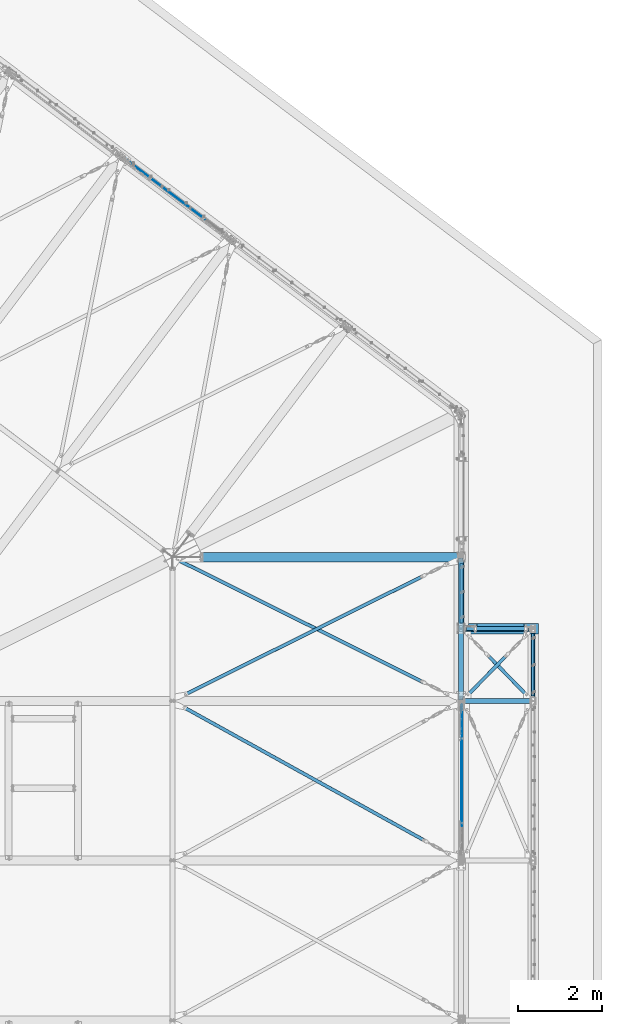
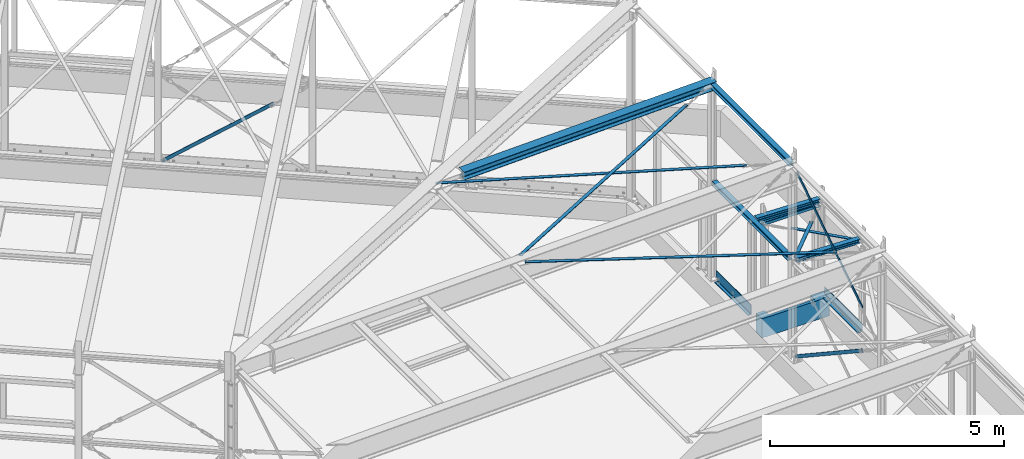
# One storey, part 25 of 476: 11 members, 6 beams, 58 openings.
"""IFC2X3 building model written with IfcOpenShell, lengths in millimetres."""

from ifc_helpers import new_model, entity, si_unit, converted_unit, frame, frame_2d, origin, origin_with_axes, origin_2d, origin_2d_with_axis, place, context, project, spatial, polyline, rectangle, hollow_rectangle, circle, i_section, l_section, outline, extrude, clip, halfspace, material, element, save


model = new_model("IFC2X3")

# Units and contexts
model_context = context("Model", 3, precision=1e-09, world=origin_with_axes())
ifc_project = project(units=[si_unit("LENGTHUNIT", "METRE", prefix="MILLI"), si_unit("AREAUNIT", "SQUARE_METRE"), si_unit("VOLUMEUNIT", "CUBIC_METRE"), converted_unit("PLANEANGLEUNIT", "DEGREE", entity("IfcPlaneAngleMeasure", 0.01745329), si_unit("PLANEANGLEUNIT", "RADIAN"), dimensions=[0, 0, 0, 0, 0, 0, 0])], contexts=[model_context])

# Site, building, storey
site_placement = place(None, origin_with_axes())
site = spatial("IfcSite", under=ifc_project, at=site_placement, Name="mKR Teilneubau & Sanierung BA1 - Ostfildern", CompositionType="ELEMENT")
building_placement = place(site_placement, origin_with_axes())
building = spatial("IfcBuilding", under=site, at=building_placement, Name="Struktur 1", CompositionType="ELEMENT")
storey_placement = place(building_placement, origin_with_axes())
storey = spatial("IfcBuildingStorey", under=building, at=storey_placement, Name="Default Storey", CompositionType="ELEMENT", Elevation=0.0)

# Member, openings
ifc_material_1 = material(Name="S235JR")
member_1_placement = place(None, frame((21128.924203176, -9306.540722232, 5611.516079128), z_axis=(0.874571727, -0.484183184, 0.026285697), x_axis=(0.030041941, 0.0, -0.999548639)))
member_1 = element("IfcMember", 1, at=member_1_placement, inside=storey, material=ifc_material_1, Name="-", ObjectType="-", context=model_context, shape_type="SweptSolid", body=[
    extrude(rectangle(XDim=15.0, YDim=80.0, at=origin_2d()), origin(), (0.0, 0.0, -1.0), 6675.65653727),
])
opening_1_placement = place(member_1_placement, frame((8.0, -0.000317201, -6615.657110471), z_axis=(-1.0, 0.0, 0.0), x_axis=(0.0, 0.0, -1.0)))
element("IfcOpeningElement", 2, at=opening_1_placement, cuts=member_1, ObjectType="Opening", context=model_context, shape_type="SweptSolid", body=[
    extrude(circle(Radius=14.501, at=origin_2d_with_axis()), origin(), (0.0, 0.0, 1.0), 16.0),
])
opening_2_placement = place(member_1_placement, frame((8.0, 1.312132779, -60.726847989), z_axis=(-1.0, 0.0, 0.0), x_axis=(0.0, 0.0, -1.0)))
element("IfcOpeningElement", 3, at=opening_2_placement, cuts=member_1, ObjectType="Opening", context=model_context, shape_type="SweptSolid", body=[
    extrude(circle(Radius=14.501, at=origin_2d_with_axis()), origin(), (0.0, 0.0, 1.0), 16.0),
])

member_2_placement = place(None, frame((15129.595454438, -2545.899628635, 5408.192936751), z_axis=(0.894867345, -0.445521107, 0.026895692), x_axis=(0.030041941, 0.0, -0.999548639)))
member_2 = element("IfcMember", 4, at=member_2_placement, inside=storey, material=ifc_material_1, Name="-", ObjectType="-", context=model_context, shape_type="SweptSolid", body=[
    extrude(rectangle(XDim=15.0, YDim=80.0, at=origin_2d()), origin(), (0.0, 0.0, 1.0), 6652.397441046),
])
opening_3_placement = place(member_2_placement, frame((7.5, 40.0, 0.0), z_axis=(1.0, 0.0, 0.0), x_axis=(0.0, 0.0, 1.0)))
element("IfcOpeningElement", 5, at=opening_3_placement, cuts=member_2, ObjectType="Opening", context=model_context, shape_type="SweptSolid", body=[
    extrude(outline(polyline([(0.0, 0.0), (45.0, 0.0), (0.0, 25.0), (0.0, 0.0)])), origin(), (0.0, 0.0, -1.0), 15.0),
])
opening_4_placement = place(member_2_placement, frame((8.0, 0.0, 6606.898110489), z_axis=(1.0, 0.0, 0.0), x_axis=(0.0, 1.0, 0.0)))
element("IfcOpeningElement", 6, at=opening_4_placement, cuts=member_2, ObjectType="Opening", context=model_context, shape_type="SweptSolid", body=[
    extrude(circle(Radius=14.501, at=frame_2d((0.0, -14.501), x_axis=(1.0, 0.0))), origin(), (0.0, 0.0, -1.0), 16.0),
])
opening_5_placement = place(member_2_placement, frame((-8.0, 0.0, 75.999), z_axis=(-1.0, 0.0, 0.0), x_axis=(0.0, -1.0, 0.0)))
element("IfcOpeningElement", 7, at=opening_5_placement, cuts=member_2, ObjectType="Opening", context=model_context, shape_type="SweptSolid", body=[
    extrude(circle(Radius=9.001, at=frame_2d((0.0, 9.001), x_axis=(1.0, 0.0))), origin(), (0.0, 0.0, -1.0), 16.0),
])
opening_6_placement = place(member_2_placement, frame((-8.0, 0.0, 25.999), z_axis=(-1.0, 0.0, 0.0), x_axis=(0.0, -1.0, 0.0)))
element("IfcOpeningElement", 8, at=opening_6_placement, cuts=member_2, ObjectType="Opening", context=model_context, shape_type="SweptSolid", body=[
    extrude(circle(Radius=9.001, at=frame_2d((0.0, 9.001), x_axis=(1.0, 0.0))), origin(), (0.0, 0.0, -1.0), 16.0),
])

# Beam, openings
beam_1_placement = place(None, frame((23718.008764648, -4278.67387897, 594.5), z_axis=(0.0, 1.0, 0.0), x_axis=(-1.0, 0.0, 0.0)))
beam_1 = element("IfcBeam", 9, at=beam_1_placement, inside=storey, material=ifc_material_1, Name="-", ObjectType="-", context=model_context, shape_type="SweptSolid", body=[
    extrude(l_section(Depth=250.0, Width=90.0, Thickness=10.0, FilletRadius=15.0, EdgeRadius=7.5, at=frame_2d((30.5, 29.4))), origin(), (0.0, 0.0, -1.0), 1610.0),
])
opening_7_placement = place(beam_1_placement, frame((-115.7, -94.5, 0.0), z_axis=(1.0, 0.0, 0.0), x_axis=(0.0, 0.0, -1.0)))
element("IfcOpeningElement", 10, at=opening_7_placement, cuts=beam_1, ObjectType="Opening", context=model_context, shape_type="SweptSolid", body=[
    extrude(outline(polyline([(60.001, 80.001), (-50.001, 80.001), (-50.001, -50.001), (60.001, -50.001), (60.001, 80.001)])), origin(), (0.0, 0.0, 1.0), 290.2),
])
opening_8_placement = place(beam_1_placement, frame((-115.7, -94.5, 0.0), z_axis=(1.0, 0.0, 0.0), x_axis=(0.0, 0.0, -1.0)))
element("IfcOpeningElement", 11, at=opening_8_placement, cuts=beam_1, ObjectType="Opening", context=model_context, shape_type="SweptSolid", body=[
    extrude(outline(polyline([(1549.999, -50.001), (1653.778207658, -50.001), (1653.778207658, 80.001), (1549.999, 80.001), (1549.999, -50.001)])), origin(), (0.0, 0.0, 1.0), 290.2),
])
opening_9_placement = place(beam_1_placement, frame((34.4, -95.0, -828.9995), z_axis=(0.0, -1.0, 0.0), x_axis=(1.0, 0.0, 0.0)))
element("IfcOpeningElement", 12, at=opening_9_placement, cuts=beam_1, ObjectType="Opening", context=model_context, shape_type="SweptSolid", body=[
    extrude(circle(Radius=6.001, at=frame_2d((0.0, -6.001), x_axis=(1.0, 0.0))), origin(), (0.0, 0.0, -1.0), 11.0),
])
opening_10_placement = place(beam_1_placement, frame((34.4, -95.0, -1478.9995), z_axis=(0.0, -1.0, 0.0), x_axis=(1.0, 0.0, 0.0)))
element("IfcOpeningElement", 13, at=opening_10_placement, cuts=beam_1, ObjectType="Opening", context=model_context, shape_type="SweptSolid", body=[
    extrude(circle(Radius=6.001, at=frame_2d((0.0, -6.001), x_axis=(1.0, 0.0))), origin(), (0.0, 0.0, -1.0), 11.0),
])
opening_11_placement = place(beam_1_placement, frame((34.4, -95.0, -178.9995), z_axis=(0.0, -1.0, 0.0), x_axis=(1.0, 0.0, 0.0)))
element("IfcOpeningElement", 14, at=opening_11_placement, cuts=beam_1, ObjectType="Opening", context=model_context, shape_type="SweptSolid", body=[
    extrude(circle(Radius=6.001, at=frame_2d((0.0, -6.001), x_axis=(1.0, 0.0))), origin(), (0.0, 0.0, -1.0), 11.0),
])
opening_12_placement = place(beam_1_placement, frame((-5.1, 13.5, -805.0), z_axis=(-1.0, 0.0, 0.0), x_axis=(0.0, 0.0, 1.0)))
element("IfcOpeningElement", 15, at=opening_12_placement, cuts=beam_1, ObjectType="Opening", context=model_context, shape_type="SweptSolid", body=[
    extrude(circle(Radius=7.001, at=origin_2d_with_axis()), origin(), (0.0, 0.0, 1.0), 11.0),
])
opening_13_placement = place(beam_1_placement, frame((-5.1, 13.5, -805.0), z_axis=(-1.0, 0.0, 0.0), x_axis=(0.0, 0.0, 1.0)))
element("IfcOpeningElement", 16, at=opening_13_placement, cuts=beam_1, ObjectType="Opening", context=model_context, shape_type="SweptSolid", body=[
    extrude(circle(Radius=7.001, at=frame_2d((650.0, 0.0), x_axis=(1.0, 0.0))), origin(), (0.0, 0.0, 1.0), 11.0),
])
opening_14_placement = place(beam_1_placement, frame((-5.1, 13.5, -805.0), z_axis=(-1.0, 0.0, 0.0), x_axis=(0.0, 0.0, 1.0)))
element("IfcOpeningElement", 17, at=opening_14_placement, cuts=beam_1, ObjectType="Opening", context=model_context, shape_type="SweptSolid", body=[
    extrude(circle(Radius=7.001, at=frame_2d((-650.0, 0.0), x_axis=(1.0, 0.0))), origin(), (0.0, 0.0, 1.0), 11.0),
])

# Members
member_3_placement = place(None, frame((23768.367449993, -5948.67387897, 3015.594224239), z_axis=(0.999577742, 0.0, -0.029057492), x_axis=(0.0, -1.0, 0.0)))
element("IfcMember", 18, at=member_3_placement, inside=storey, material=ifc_material_1, Name="-", ObjectType="-", context=model_context, shape_type="Clipping", body=[
    clip(clip(extrude(i_section(OverallWidth=120.0, OverallDepth=114.0, WebThickness=5.0, FlangeThickness=8.0, FilletRadius=12.0, at=origin_2d()), origin(), (0.0, 0.0, -1.0), 1886.313881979), halfspace(frame((-5948.67387897, 3064.336297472, -1632.905263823), z_axis=(0.0, -0.029057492, 0.999577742), x_axis=(-1.0, 0.0, 0.0)), True)), halfspace(frame((-5948.67387897, 3018.934023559, -71.067041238), z_axis=(0.0, 0.029057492, -0.999577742), x_axis=(1.0, 0.0, 0.0)), True)),
])
member_4_placement = place(None, frame((23768.367449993, -4228.67387897, 3015.594224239), z_axis=(0.999577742, 0.0, -0.029057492), x_axis=(0.0, -1.0, 0.0)))
element("IfcMember", 19, at=member_4_placement, inside=storey, material=ifc_material_1, Name="-", ObjectType="-", context=model_context, shape_type="Clipping", body=[
    clip(clip(clip(extrude(i_section(OverallWidth=120.0, OverallDepth=114.0, WebThickness=5.0, FlangeThickness=8.0, FilletRadius=12.0, at=origin_2d()), origin(), (0.0, 0.0, -1.0), 1886.313881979), halfspace(frame((-4228.67387897, 3064.336297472, -1632.905263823), z_axis=(0.0, -0.029057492, 0.999577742), x_axis=(-1.0, 0.0, 0.0)), True)), halfspace(frame((-4228.67387897, 3018.934023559, -71.067041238), z_axis=(0.0, 0.029057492, -0.999577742), x_axis=(1.0, 0.0, 0.0)), True)), halfspace(frame((-4228.67387897, 3064.263653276, -1630.406303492), z_axis=(0.0, -0.029057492, 0.999577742), x_axis=(-1.0, 0.0, 0.0)), True)),
])

# Member, openings
member_5_placement = place(None, frame((22090.333809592, -5845.081885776, 3029.859697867), z_axis=(-0.698528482, -0.715294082, 0.020306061), x_axis=(-0.029057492, 0.0, -0.999577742)))
member_5 = element("IfcMember", 20, at=member_5_placement, inside=storey, material=ifc_material_1, Name="-", ObjectType="-", context=model_context, shape_type="SweptSolid", body=[
    extrude(rectangle(XDim=15.0, YDim=80.0, at=origin_2d()), origin(), (0.0, 0.0, -1.0), 1419.956704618),
])
opening_15_placement = place(member_5_placement, frame((8.0, 0.0, -1359.956704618), z_axis=(-1.0, 0.0, 0.0), x_axis=(0.0, 0.0, 1.0)))
element("IfcOpeningElement", 21, at=opening_15_placement, cuts=member_5, ObjectType="Opening", context=model_context, shape_type="SweptSolid", body=[
    extrude(circle(Radius=14.501, at=origin_2d_with_axis()), origin(), (0.0, 0.0, 1.0), 16.0),
])
opening_16_placement = place(member_5_placement, frame((8.0, 1e-09, -60.000000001), z_axis=(-1.0, 0.0, 0.0), x_axis=(0.0, -0.698823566, -0.715294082)))
element("IfcOpeningElement", 22, at=opening_16_placement, cuts=member_5, ObjectType="Opening", context=model_context, shape_type="SweptSolid", body=[
    extrude(circle(Radius=14.501, at=origin_2d_with_axis()), origin(), (0.0, 0.0, 1.0), 16.0),
])

member_6_placement = place(None, frame((23567.740060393, -5845.062029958, 2986.911841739), z_axis=(0.697955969, -0.715853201, -0.020289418), x_axis=(-0.029057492, 0.0, -0.999577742)))
member_6 = element("IfcMember", 23, at=member_6_placement, inside=storey, material=ifc_material_1, Name="-", ObjectType="-", context=model_context, shape_type="SweptSolid", body=[
    extrude(rectangle(XDim=15.0, YDim=80.0, at=origin_2d()), origin(), (0.0, 0.0, -1.0), 1420.029706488),
])
opening_17_placement = place(member_6_placement, frame((8.0, 0.0, -1359.977022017), z_axis=(-1.0, 0.0, 0.0), x_axis=(0.0, 0.0, -1.0)))
element("IfcOpeningElement", 24, at=opening_17_placement, cuts=member_6, ObjectType="Opening", context=model_context, shape_type="SweptSolid", body=[
    extrude(circle(Radius=14.501, at=origin_2d_with_axis()), origin(), (0.0, 0.0, 1.0), 16.0),
])
opening_18_placement = place(member_6_placement, frame((8.0, 1e-09, -60.019900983), z_axis=(-1.0, 0.0, 0.0), x_axis=(0.0, 0.698250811, -0.715853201)))
element("IfcOpeningElement", 25, at=opening_18_placement, cuts=member_6, ObjectType="Opening", context=model_context, shape_type="SweptSolid", body=[
    extrude(circle(Radius=14.501, at=origin_2d_with_axis()), origin(), (0.0, 0.0, 1.0), 16.0),
])

member_7_placement = place(None, frame((15829.129431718, 5575.89051523, 2320.479951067), z_axis=(0.650125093, -0.49107945, 0.57980888), x_axis=(-0.60273451, -0.797941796, 0.0)))
member_7 = element("IfcMember", 26, at=member_7_placement, inside=storey, material=ifc_material_1, Name="-", ObjectType="-", context=model_context, shape_type="SweptSolid", body=[
    extrude(rectangle(XDim=15.0, YDim=80.0, at=origin_2d()), origin(), (0.0, 0.0, -1.0), 2965.291288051),
])
opening_19_placement = place(member_7_placement, frame((8.000001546, 7.099e-06, -2905.291285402), z_axis=(-1.0, 0.0, 0.0), x_axis=(1.06e-07, 0.57980888, 0.814752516)))
element("IfcOpeningElement", 27, at=opening_19_placement, cuts=member_7, ObjectType="Opening", context=model_context, shape_type="SweptSolid", body=[
    extrude(circle(Radius=16.001, at=origin_2d_with_axis()), origin(), (0.0, 0.0, 1.0), 16.000003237),
])
opening_20_placement = place(member_7_placement, frame((8.0, 0.0, -60.0), z_axis=(-1.0, 0.0, 0.0), x_axis=(0.0, 0.0, 1.0)))
element("IfcOpeningElement", 28, at=opening_20_placement, cuts=member_7, ObjectType="Opening", context=model_context, shape_type="SweptSolid", body=[
    extrude(circle(Radius=16.001, at=origin_2d_with_axis()), origin(), (0.0, 0.0, 1.0), 16.0),
])

member_8_placement = place(None, frame((21980.608764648, -8918.134633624, 3623.993561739), z_axis=(0.0, -0.836140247, -0.548515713), x_axis=(-1.0, 0.0, 0.0)))
member_8 = element("IfcMember", 29, at=member_8_placement, inside=storey, material=ifc_material_1, Name="-", ObjectType="-", context=model_context, shape_type="SweptSolid", body=[
    extrude(rectangle(XDim=15.0, YDim=80.0, at=origin_2d()), origin(), (0.0, 0.0, -1.0), 3362.757896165),
])
opening_21_placement = place(member_8_placement, frame((8.0, -7.147e-06, -3302.757896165), z_axis=(-1.0, 0.0, 0.0), x_axis=(0.0, -0.548515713, 0.836140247)))
element("IfcOpeningElement", 30, at=opening_21_placement, cuts=member_8, ObjectType="Opening", context=model_context, shape_type="SweptSolid", body=[
    extrude(circle(Radius=16.001, at=origin_2d_with_axis()), origin(), (0.0, 0.0, 1.0), 16.0),
])
opening_22_placement = place(member_8_placement, frame((8.0, 0.0, -60.0), z_axis=(-1.0, 0.0, 0.0), x_axis=(0.0, 0.548515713, -0.836140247)))
element("IfcOpeningElement", 31, at=opening_22_placement, cuts=member_8, ObjectType="Opening", context=model_context, shape_type="SweptSolid", body=[
    extrude(circle(Radius=16.001, at=origin_2d_with_axis()), origin(), (0.0, 0.0, 1.0), 16.0),
])

member_9_placement = place(None, frame((21980.610172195, -6048.509779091, 610.989855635), z_axis=(3.16e-07, 0.834229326, -0.551417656), x_axis=(-1.0, 2.64e-07, -1.74e-07)))
member_9 = element("IfcMember", 32, at=member_9_placement, inside=storey, material=ifc_material_1, Name="-", ObjectType="-", context=model_context, shape_type="SweptSolid", body=[
    extrude(rectangle(XDim=15.0, YDim=80.0, at=origin_2d()), origin(), (0.0, 0.0, -1.0), 3441.605371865),
])
opening_23_placement = place(member_9_placement, frame((8.000004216, 8.0793e-05, -59.999907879), z_axis=(-1.0, 0.0, 3.16e-07), x_axis=(-2.64e-07, -0.551417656, -0.834229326)))
element("IfcOpeningElement", 33, at=opening_23_placement, cuts=member_9, ObjectType="Opening", context=model_context, shape_type="SweptSolid", body=[
    extrude(circle(Radius=16.001, at=origin_2d_with_axis()), origin(), (0.0, 0.0, 1.0), 16.000009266),
])
opening_24_placement = place(member_9_placement, frame((8.000004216, 0.0, -3381.605374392), z_axis=(-1.0, 0.0, 3.16e-07), x_axis=(2.64e-07, 0.551417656, 0.834229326)))
element("IfcOpeningElement", 34, at=opening_24_placement, cuts=member_9, ObjectType="Opening", context=model_context, shape_type="SweptSolid", body=[
    extrude(circle(Radius=16.001, at=origin_2d_with_axis()), origin(), (0.0, 0.0, 1.0), 16.000009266),
])

# Beam, openings
beam_2_placement = place(None, frame((21965.608780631, -2430.662269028, 5571.987213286), z_axis=(0.0, 1.0, 0.0), x_axis=(-0.999548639, 0.0, -0.030041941)))
beam_2 = element("IfcBeam", 35, at=beam_2_placement, inside=storey, material=ifc_material_1, Name="-", ObjectType="-", context=model_context, shape_type="Clipping", body=[
    clip(clip(extrude(i_section(OverallWidth=120.0, OverallDepth=114.0, WebThickness=5.0, FlangeThickness=8.0, FilletRadius=12.0, at=origin_2d()), origin(), (0.0, 0.0, -1.0), 3600.770295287), halfspace(frame((22123.087675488, -4909.582702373, -98.259685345), z_axis=(0.0, 0.0, -1.0), x_axis=(-0.999548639, -0.030041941, 0.0)), True)), halfspace(frame((22123.087675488, -4909.582702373, -3500.010609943), z_axis=(0.0, 0.0, 1.0), x_axis=(0.999548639, 0.030041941, 0.0)), True)),
])
opening_25_placement = place(beam_2_placement, frame((0.0, -1.304733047, -82.758685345), z_axis=(0.0, 1.0, 0.0), x_axis=(0.0, 0.0, -1.0)))
element("IfcOpeningElement", 36, at=opening_25_placement, cuts=beam_2, ObjectType="Opening", context=model_context, shape_type="SweptSolid", body=[
    extrude(outline(polyline([(80.0, 45.0), (80.0, 75.0), (15.5, 75.0), (15.5, 45.0), (80.0, 45.0)])), origin(), (0.0, 0.0, 1.0), 59.609466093),
])
opening_26_placement = place(beam_2_placement, frame((0.0, -58.324395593, -82.758685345), z_axis=(0.0, 1.0, 0.0), x_axis=(0.0, 0.0, -1.0)))
element("IfcOpeningElement", 37, at=opening_26_placement, cuts=beam_2, ObjectType="Opening", context=model_context, shape_type="SweptSolid", body=[
    extrude(outline(polyline([(80.0, 45.0), (80.0, 75.0), (15.5, 75.0), (15.5, 45.0), (80.0, 45.0)])), origin(), (0.0, 0.0, 1.0), 59.648791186),
])
opening_27_placement = place(beam_2_placement, frame((0.0, 58.353598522, -3518.011609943), z_axis=(0.0, -1.0, 0.0), x_axis=(0.0, 0.0, 1.0)))
element("IfcOpeningElement", 38, at=opening_27_placement, cuts=beam_2, ObjectType="Opening", context=model_context, shape_type="SweptSolid", body=[
    extrude(outline(polyline([(80.0, 45.0), (80.0, 75.0), (18.0, 75.0), (18.0, 45.0), (80.0, 45.0)])), origin(), (0.0, 0.0, 1.0), 59.707197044),
])
opening_28_placement = place(beam_2_placement, frame((0.0, 1.332627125, -3518.011609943), z_axis=(0.0, -1.0, 0.0), x_axis=(0.0, 0.0, 1.0)))
element("IfcOpeningElement", 39, at=opening_28_placement, cuts=beam_2, ObjectType="Opening", context=model_context, shape_type="SweptSolid", body=[
    extrude(outline(polyline([(80.0, 45.0), (80.0, 75.0), (18.0, 75.0), (18.0, 45.0), (80.0, 45.0)])), origin(), (0.0, 0.0, 1.0), 59.665254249),
])

# Beam, opening
ifc_material_2 = material(Name="C25/30")
beam_3_placement = place(None, frame((22140.608764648, -4219.103698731, 250.0), z_axis=(-1.0, 0.0, 0.0), x_axis=(0.0, -1.0, 0.0)))
beam_3 = element("IfcBeam", 40, at=beam_3_placement, inside=storey, material=ifc_material_2, Name="-", ObjectType="-", context=model_context, shape_type="SweptSolid", body=[
    extrude(outline(polyline([(125.0, -250.0), (125.0, 250.0), (-125.0, 250.0), (-125.0, -250.0), (125.0, -250.0)])), origin(), (0.0, 0.0, -1.0), 1669.999999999),
])
opening_29_placement = place(beam_3_placement, frame((125.0, 80.0, 0.0), z_axis=(0.0, 1.0, 0.0), x_axis=(0.0, 0.0, -1.0)))
element("IfcOpeningElement", 41, at=opening_29_placement, cuts=beam_3, ObjectType="Opening", context=model_context, shape_type="SweptSolid", body=[
    extrude(outline(polyline([(204.999, 74.999), (1335.000999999, 74.999), (1335.000999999, 250.001), (204.999, 250.001), (204.999, 74.999)])), origin(), (0.0, 0.0, 1.0), 270.1),
])

# Beam, openings
beam_4_placement = place(None, frame((23627.608764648, -4218.67387897, 2895.0), z_axis=(1.0, 0.0, 0.0), x_axis=(0.0, 0.0, -1.0)))
beam_4 = element("IfcBeam", 42, at=beam_4_placement, inside=storey, material=ifc_material_1, Name="-", ObjectType="-", context=model_context, shape_type="SweptSolid", body=[
    extrude(hollow_rectangle(XDim=80.0, YDim=100.0, WallThickness=4.0, InnerFilletRadius=4.0, OuterFilletRadius=8.0, at=origin_2d()), origin(), (0.0, 0.0, -1.0), 1585.5),
])
opening_30_placement = place(beam_4_placement, frame((0.0, -150.1, 0.0), z_axis=(0.0, 1.0, 0.0), x_axis=(0.0, 0.0, -1.0)))
element("IfcOpeningElement", 43, at=opening_30_placement, cuts=beam_4, ObjectType="Opening", context=model_context, shape_type="SweptSolid", body=[
    extrude(outline(polyline([(-39.690610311, 92.664844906), (-39.690610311, -49.692024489), (81.742294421, 71.740880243), (-39.690610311, 92.664844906)])), origin(), (0.0, 0.0, 1.0), 300.2),
])
opening_31_placement = place(beam_4_placement, frame((0.0, -150.1, -1585.5), z_axis=(0.0, 1.0, 0.0), x_axis=(0.0, 0.0, -1.0)))
element("IfcOpeningElement", 44, at=opening_31_placement, cuts=beam_4, ObjectType="Opening", context=model_context, shape_type="SweptSolid", body=[
    extrude(outline(polyline([(-72.790123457, 62.788709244), (43.863418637, -53.86483285), (43.863418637, 97.835842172), (-72.790123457, 62.788709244)])), origin(), (0.0, 0.0, 1.0), 300.2),
])
opening_32_placement = place(beam_4_placement, frame((40.5, 0.0, -25.0), z_axis=(-1.0, 0.0, 0.0), x_axis=(0.0, 0.0, -1.0)))
element("IfcOpeningElement", 45, at=opening_32_placement, cuts=beam_4, ObjectType="Opening", context=model_context, shape_type="SweptSolid", body=[
    extrude(circle(Radius=7.001, at=frame_2d((0.0, 25.0), x_axis=(1.0, 0.0))), origin(), (0.0, 0.0, 1.0), 5.0),
])
opening_33_placement = place(beam_4_placement, frame((40.5, 0.0, -25.0), z_axis=(-1.0, 0.0, 0.0), x_axis=(0.0, 0.0, -1.0)))
element("IfcOpeningElement", 46, at=opening_33_placement, cuts=beam_4, ObjectType="Opening", context=model_context, shape_type="SweptSolid", body=[
    extrude(circle(Radius=7.001, at=frame_2d((0.0, -25.0), x_axis=(1.0, 0.0))), origin(), (0.0, 0.0, 1.0), 5.0),
])
opening_34_placement = place(beam_4_placement, frame((40.5, -25.0, -1567.500999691), z_axis=(1.0, 0.0, 0.0), x_axis=(0.0, 1.0, 0.0)))
element("IfcOpeningElement", 47, at=opening_34_placement, cuts=beam_4, ObjectType="Opening", context=model_context, shape_type="SweptSolid", body=[
    extrude(circle(Radius=7.001, at=frame_2d((0.0, 7.001), x_axis=(1.0, 0.0))), origin(), (0.0, 0.0, -1.0), 5.0),
])
opening_35_placement = place(beam_4_placement, frame((40.5, 25.0, -1567.500999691), z_axis=(1.0, 0.0, 0.0), x_axis=(0.0, 1.0, 0.0)))
element("IfcOpeningElement", 48, at=opening_35_placement, cuts=beam_4, ObjectType="Opening", context=model_context, shape_type="SweptSolid", body=[
    extrude(circle(Radius=7.001, at=frame_2d((0.0, 7.001), x_axis=(1.0, 0.0))), origin(), (0.0, 0.0, -1.0), 5.0),
])

beam_5_placement = place(None, frame((21965.608780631, -2430.662269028, 3068.000017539), z_axis=(0.0, 1.0, 0.0), x_axis=(-1.0, 0.0, 0.0)))
beam_5 = element("IfcBeam", 49, at=beam_5_placement, inside=storey, material=ifc_material_1, Name="-", ObjectType="-", context=model_context, shape_type="Clipping", body=[
    clip(clip(extrude(i_section(OverallWidth=120.0, OverallDepth=114.0, WebThickness=5.0, FlangeThickness=8.0, FilletRadius=12.0, at=origin_2d()), origin(), (0.0, 0.0, -1.0), 3600.770295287), halfspace(frame((21965.608780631, -3068.000017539, -182.759685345), z_axis=(0.0, 0.0, -1.0), x_axis=(-1.0, 0.0, 0.0)), True)), halfspace(frame((21965.608780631, -3068.000017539, -3418.010609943), z_axis=(0.0, 0.0, 1.0), x_axis=(1.0, 0.0, 0.0)), True)),
])
opening_36_placement = place(beam_5_placement, frame((33.000015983, -57.5, -1755.012609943), z_axis=(0.0, -1.0, 0.0), x_axis=(1.0, 0.0, 0.0)))
element("IfcOpeningElement", 50, at=opening_36_placement, cuts=beam_5, ObjectType="Opening", context=model_context, shape_type="SweptSolid", body=[
    extrude(circle(Radius=7.001, at=frame_2d((0.0, 7.001), x_axis=(1.0, 0.0))), origin(), (0.0, 0.0, -1.0), 9.0),
])
opening_37_placement = place(beam_5_placement, frame((-32.999984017, -57.5, -1821.010609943), z_axis=(0.0, -1.0, 0.0), x_axis=(1.0, 0.0, 0.0)))
element("IfcOpeningElement", 51, at=opening_37_placement, cuts=beam_5, ObjectType="Opening", context=model_context, shape_type="SweptSolid", body=[
    extrude(circle(Radius=7.001, at=frame_2d((0.0, -7.001), x_axis=(1.0, 0.0))), origin(), (0.0, 0.0, -1.0), 9.0),
])
opening_38_placement = place(beam_5_placement, frame((-32.999984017, -57.5, -1755.012609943), z_axis=(0.0, -1.0, 0.0), x_axis=(1.0, 0.0, 0.0)))
element("IfcOpeningElement", 52, at=opening_38_placement, cuts=beam_5, ObjectType="Opening", context=model_context, shape_type="SweptSolid", body=[
    extrude(circle(Radius=7.001, at=frame_2d((0.0, 7.001), x_axis=(1.0, 0.0))), origin(), (0.0, 0.0, -1.0), 9.0),
])
opening_39_placement = place(beam_5_placement, frame((33.000015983, -57.5, -1821.010609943), z_axis=(0.0, -1.0, 0.0), x_axis=(1.0, 0.0, 0.0)))
element("IfcOpeningElement", 53, at=opening_39_placement, cuts=beam_5, ObjectType="Opening", context=model_context, shape_type="SweptSolid", body=[
    extrude(circle(Radius=7.001, at=frame_2d((0.0, -7.001), x_axis=(1.0, 0.0))), origin(), (0.0, 0.0, -1.0), 9.0),
])

# Member, openings
member_10_placement = place(None, frame((15793.435124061, -2513.420954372, 5398.457709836), z_axis=(-0.999548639, 0.0, -0.030041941), x_axis=(0.0, -1.0, 0.0)))
member_10 = element("IfcMember", 54, at=member_10_placement, inside=storey, material=ifc_material_1, Name="-", ObjectType="-", context=model_context, shape_type="Clipping", body=[
    clip(extrude(i_section(OverallWidth=220.0, OverallDepth=210.0, WebThickness=7.0, FlangeThickness=11.0, FilletRadius=18.0, at=origin_2d()), origin(), (0.0, 0.0, -1.0), 6540.34810464), halfspace(frame((-2513.420954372, -5583.142475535, -6063.681110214), z_axis=(0.0, 0.030041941, 0.999548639), x_axis=(1.0, 0.0, 0.0)), True)),
])
opening_40_placement = place(member_10_placement, frame((-4.0, -11.972900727, -6149.600941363), z_axis=(1.0, 0.0, 0.0), x_axis=(0.0, 1.0, 0.0)))
element("IfcOpeningElement", 55, at=opening_40_placement, cuts=member_10, ObjectType="Opening", context=model_context, shape_type="SweptSolid", body=[
    extrude(circle(Radius=7.001, at=origin_2d_with_axis()), origin(), (0.0, 0.0, 1.0), 8.0),
])
opening_41_placement = place(member_10_placement, frame((-4.0, -11.972900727, -6199.600941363), z_axis=(1.0, 0.0, 0.0), x_axis=(0.0, 1.0, 0.0)))
element("IfcOpeningElement", 56, at=opening_41_placement, cuts=member_10, ObjectType="Opening", context=model_context, shape_type="SweptSolid", body=[
    extrude(circle(Radius=7.001, at=origin_2d_with_axis()), origin(), (0.0, 0.0, 1.0), 8.0),
])
opening_42_placement = place(member_10_placement, frame((-4.0, 68.0, -13.000073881), z_axis=(1.0, 0.0, 0.0), x_axis=(0.0, 0.0, -1.0)))
element("IfcOpeningElement", 57, at=opening_42_placement, cuts=member_10, ObjectType="Opening", context=model_context, shape_type="SweptSolid", body=[
    extrude(circle(Radius=7.001, at=origin_2d_with_axis()), origin(), (0.0, 0.0, 1.0), 8.0),
])
opening_43_placement = place(member_10_placement, frame((-4.0, -68.0, -13.000073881), z_axis=(1.0, 0.0, 0.0), x_axis=(0.0, 0.0, -1.0)))
element("IfcOpeningElement", 58, at=opening_43_placement, cuts=member_10, ObjectType="Opening", context=model_context, shape_type="SweptSolid", body=[
    extrude(circle(Radius=7.001, at=origin_2d_with_axis()), origin(), (0.0, 0.0, 1.0), 8.0),
])
opening_44_placement = place(member_10_placement, frame((52.001, -105.5, -6143.703867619), z_axis=(0.0, -1.0, 0.0), x_axis=(1.0, 0.0, 0.0)))
element("IfcOpeningElement", 59, at=opening_44_placement, cuts=member_10, ObjectType="Opening", context=model_context, shape_type="SweptSolid", body=[
    extrude(circle(Radius=7.001, at=frame_2d((-7.001, 0.0), x_axis=(1.0, 0.0))), origin(), (0.0, 0.0, -1.0), 12.0),
])
opening_45_placement = place(member_10_placement, frame((52.001, -105.5, -6198.703867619), z_axis=(0.0, -1.0, 0.0), x_axis=(1.0, 0.0, 0.0)))
element("IfcOpeningElement", 60, at=opening_45_placement, cuts=member_10, ObjectType="Opening", context=model_context, shape_type="SweptSolid", body=[
    extrude(circle(Radius=7.001, at=frame_2d((-7.001, 0.0), x_axis=(1.0, 0.0))), origin(), (0.0, 0.0, -1.0), 12.0),
])
opening_46_placement = place(member_10_placement, frame((-37.999, -105.5, -6143.703867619), z_axis=(0.0, -1.0, 0.0), x_axis=(1.0, 0.0, 0.0)))
element("IfcOpeningElement", 61, at=opening_46_placement, cuts=member_10, ObjectType="Opening", context=model_context, shape_type="SweptSolid", body=[
    extrude(circle(Radius=7.001, at=frame_2d((-7.001, 0.0), x_axis=(1.0, 0.0))), origin(), (0.0, 0.0, -1.0), 12.0),
])
opening_47_placement = place(member_10_placement, frame((-37.999, -105.5, -6198.703867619), z_axis=(0.0, -1.0, 0.0), x_axis=(1.0, 0.0, 0.0)))
element("IfcOpeningElement", 62, at=opening_47_placement, cuts=member_10, ObjectType="Opening", context=model_context, shape_type="SweptSolid", body=[
    extrude(circle(Radius=7.001, at=frame_2d((-7.001, 0.0), x_axis=(1.0, 0.0))), origin(), (0.0, 0.0, -1.0), 12.0),
])
opening_48_placement = place(member_10_placement, frame((4.0, 66.969758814, -6221.493681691), z_axis=(-1.0, 0.0, 0.0), x_axis=(0.0, 0.030041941, 0.999548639)))
element("IfcOpeningElement", 63, at=opening_48_placement, cuts=member_10, ObjectType="Opening", context=model_context, shape_type="SweptSolid", body=[
    extrude(circle(Radius=7.001, at=origin_2d_with_axis()), origin(), (0.0, 0.0, 1.0), 8.0),
])
opening_49_placement = place(member_10_placement, frame((4.0, -66.969758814, -6217.468061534), z_axis=(-1.0, 0.0, 0.0), x_axis=(0.0, 0.030041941, 0.999548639)))
element("IfcOpeningElement", 64, at=opening_49_placement, cuts=member_10, ObjectType="Opening", context=model_context, shape_type="SweptSolid", body=[
    extrude(circle(Radius=7.001, at=origin_2d_with_axis()), origin(), (0.0, 0.0, 1.0), 8.0),
])

member_11_placement = place(None, frame((15318.464058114, -5819.320558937, 5436.879864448), z_axis=(-0.894867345, -0.445521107, -0.026895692), x_axis=(0.030041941, 0.0, -0.999548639)))
member_11 = element("IfcMember", 65, at=member_11_placement, inside=storey, material=ifc_material_1, Name="-", ObjectType="-", context=model_context, shape_type="SweptSolid", body=[
    extrude(rectangle(XDim=15.0, YDim=80.0, at=origin_2d()), origin(), (0.0, 0.0, -1.0), 6440.56764371),
])
opening_50_placement = place(member_11_placement, frame((8.0, 0.0, -6380.567313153), z_axis=(-1.0, 0.0, 0.0), x_axis=(0.0, 0.0, 1.0)))
element("IfcOpeningElement", 66, at=opening_50_placement, cuts=member_11, ObjectType="Opening", context=model_context, shape_type="SweptSolid", body=[
    extrude(circle(Radius=14.501, at=origin_2d_with_axis()), origin(), (0.0, 0.0, 1.0), 16.0),
])
opening_51_placement = place(member_11_placement, frame((8.000619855, -0.000311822, -60.000633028), z_axis=(-0.999999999, 2.0026e-05, -4.0241e-05), x_axis=(4.0241e-05, 0.0, -0.999999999)))
element("IfcOpeningElement", 67, at=opening_51_placement, cuts=member_11, ObjectType="Opening", context=model_context, shape_type="SweptSolid", body=[
    extrude(circle(Radius=14.501, at=origin_2d_with_axis()), origin(), (0.0, 0.0, 1.0), 16.001239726),
])

# Beam, openings
beam_6_placement = place(None, frame((22016.508764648, -4083.67387897, 594.5), z_axis=(0.0, 1.0, 0.0), x_axis=(-1.0, 0.0, 0.0)))
beam_6 = element("IfcBeam", 68, at=beam_6_placement, inside=storey, material=ifc_material_1, Name="-", ObjectType="-", context=model_context, shape_type="SweptSolid", body=[
    extrude(l_section(Depth=250.0, Width=90.0, Thickness=10.0, FilletRadius=15.0, EdgeRadius=7.5, at=frame_2d((30.5, 29.4))), origin(), (0.0, 0.0, 1.0), 1490.252924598),
])
opening_52_placement = place(beam_6_placement, frame((-115.7, -144.501, 1425.251924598), z_axis=(-1.0, 0.0, 0.0), x_axis=(0.0, 0.0, 1.0)))
element("IfcOpeningElement", 69, at=opening_52_placement, cuts=beam_6, ObjectType="Opening", context=model_context, shape_type="SweptSolid", body=[
    extrude(outline(polyline([(0.0, 0.0), (155.909077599, 0.0), (155.909077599, 130.002), (0.0, 130.002), (0.0, 0.0)])), origin(), (0.0, 0.0, -1.0), 290.2),
])
opening_53_placement = place(beam_6_placement, frame((34.4, -95.0, 717.626462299), z_axis=(0.0, 1.0, 0.0), x_axis=(0.0, 0.0, 1.0)))
element("IfcOpeningElement", 70, at=opening_53_placement, cuts=beam_6, ObjectType="Opening", context=model_context, shape_type="SweptSolid", body=[
    extrude(circle(Radius=6.001, at=origin_2d_with_axis()), origin(), (0.0, 0.0, 1.0), 11.0),
])
opening_54_placement = place(beam_6_placement, frame((34.4, -95.0, 717.626462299), z_axis=(0.0, 1.0, 0.0), x_axis=(0.0, 0.0, 1.0)))
element("IfcOpeningElement", 71, at=opening_54_placement, cuts=beam_6, ObjectType="Opening", context=model_context, shape_type="SweptSolid", body=[
    extrude(circle(Radius=6.001, at=frame_2d((600.0, 0.0), x_axis=(1.0, 0.0))), origin(), (0.0, 0.0, 1.0), 11.0),
])
opening_55_placement = place(beam_6_placement, frame((34.4, -95.0, 717.626462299), z_axis=(0.0, 1.0, 0.0), x_axis=(0.0, 0.0, 1.0)))
element("IfcOpeningElement", 72, at=opening_55_placement, cuts=beam_6, ObjectType="Opening", context=model_context, shape_type="SweptSolid", body=[
    extrude(circle(Radius=6.001, at=frame_2d((-600.0, 0.0), x_axis=(1.0, 0.0))), origin(), (0.0, 0.0, 1.0), 11.0),
])
opening_56_placement = place(beam_6_placement, frame((-5.1, 13.5, 745.126462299), z_axis=(-1.0, 0.0, 0.0), x_axis=(0.0, 0.0, 1.0)))
element("IfcOpeningElement", 73, at=opening_56_placement, cuts=beam_6, ObjectType="Opening", context=model_context, shape_type="SweptSolid", body=[
    extrude(circle(Radius=7.001, at=origin_2d_with_axis()), origin(), (0.0, 0.0, 1.0), 11.0),
])
opening_57_placement = place(beam_6_placement, frame((-5.1, 13.5, 745.126462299), z_axis=(-1.0, 0.0, 0.0), x_axis=(0.0, 0.0, 1.0)))
element("IfcOpeningElement", 74, at=opening_57_placement, cuts=beam_6, ObjectType="Opening", context=model_context, shape_type="SweptSolid", body=[
    extrude(circle(Radius=7.001, at=frame_2d((600.0, 0.0), x_axis=(1.0, 0.0))), origin(), (0.0, 0.0, 1.0), 11.0),
])
opening_58_placement = place(beam_6_placement, frame((-5.1, 13.5, 745.126462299), z_axis=(-1.0, 0.0, 0.0), x_axis=(0.0, 0.0, 1.0)))
element("IfcOpeningElement", 75, at=opening_58_placement, cuts=beam_6, ObjectType="Opening", context=model_context, shape_type="SweptSolid", body=[
    extrude(circle(Radius=7.001, at=frame_2d((-600.0, 0.0), x_axis=(1.0, 0.0))), origin(), (0.0, 0.0, 1.0), 11.0),
])

save(model, "model.ifc")
